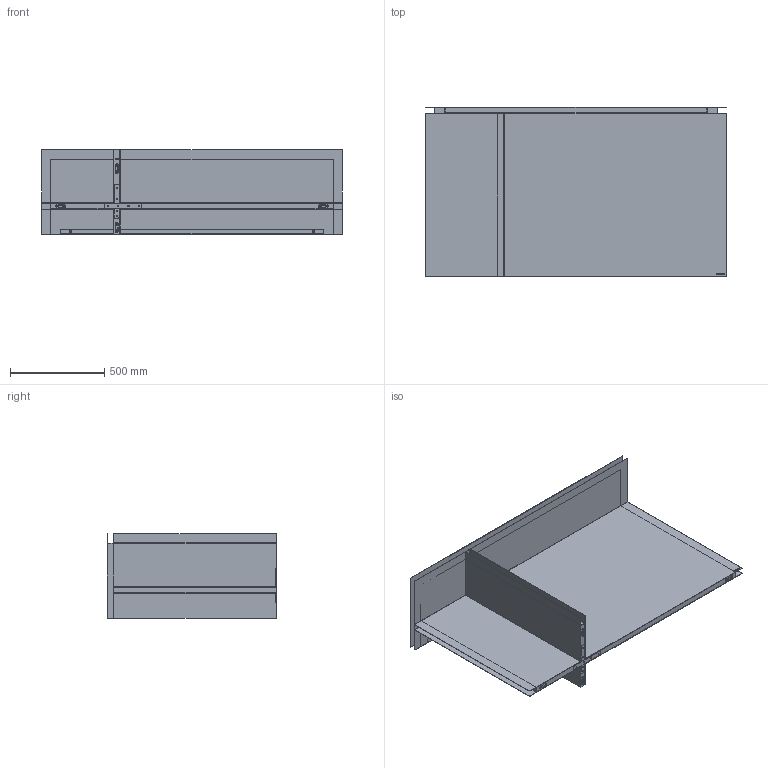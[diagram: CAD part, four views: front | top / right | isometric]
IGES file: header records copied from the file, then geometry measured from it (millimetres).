
Start section: SolidWorks IGES file using analytic representation for surfaces
Global section: file name: \\UTENTI\Dati Utenti\Tecnico\DC\2D - 3D per sito\3D\DeCastelli-3D-Folio Console.igs; native system: SolidWorks 2022; preprocessor: SolidWorks 2022; author: Silviad; date: 240711.172544; units: millimetre
Bounding box: 1600 x 902.7 x 450 mm (x, y, z)
Surface area: 14595353.8 mm2 (no closed solid volume)
Topology: 0 solids, 0 shells, 192 faces, 3597 edges, 3597 vertices
Faces by surface type: bspline 137, revolution 55
